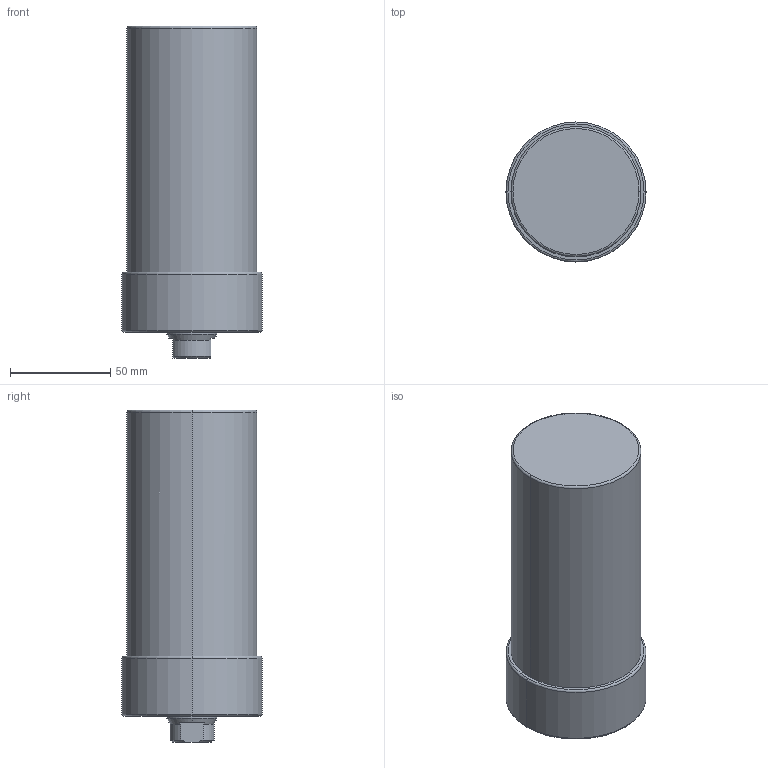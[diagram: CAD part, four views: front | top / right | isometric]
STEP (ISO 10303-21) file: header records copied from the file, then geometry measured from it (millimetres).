
FILE_DESCRIPTION (( 'STEP AP203' ), '1' );
FILE_NAME ('CLLU-065GA-090.STEP', '2020-01-07T00:06:54', ( '' ), ( '' ), 'SwSTEP 2.0', 'SolidWorks 2015', '' );
FILE_SCHEMA (( 'CONFIG_CONTROL_DESIGN' ));
Length unit declared in the file: millimetre
Products named in the file (1): CLLU-065GA-090
Bounding box: 70 x 70 x 166 mm (x, y, z)
Volume: 524039.7 mm3; surface area: 42141.7 mm2
Topology: 1 solids, 1 shells, 62 faces, 140 edges, 79 vertices
Faces by surface type: cone 24, cylinder 22, plane 10, torus 6
Entity records: 1751 total; most frequent: DIRECTION 320, CARTESIAN_POINT 300, ORIENTED_EDGE 260, AXIS2_PLACEMENT_3D 135, EDGE_CURVE 130, VERTEX_POINT 79, CIRCLE 72, EDGE_LOOP 71
